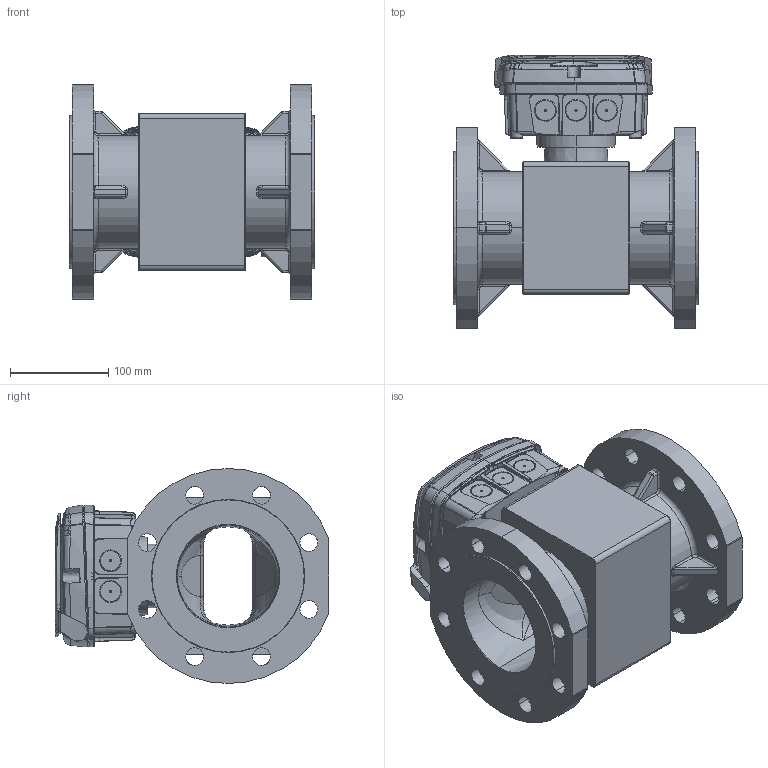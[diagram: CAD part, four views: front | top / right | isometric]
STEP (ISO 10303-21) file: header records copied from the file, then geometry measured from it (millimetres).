
FILE_DESCRIPTION (( 'STEP AP214' ), '1' );
FILE_NAME ('MagFlux-Q-DN100.STEP', '2018-01-07T08:37:03', ( 'Johnny' ), ( 'Hewlett-Packard Company' ), 'SwSTEP 2.0', 'SolidWorks 2017', '' );
FILE_SCHEMA (( 'AUTOMOTIVE_DESIGN' ));
Length unit declared in the file: millimetre
Products named in the file (7): MagFlux-Q-DN100; Field-MagFlux; 500220 - Field laag; 500216 - Field top - display; 500214 Field bund MagFlux 001; MagFlux-Q-DN100 Housing
Assembly tree (6 placements, depth 3):
  MagFlux-Q-DN100
    MagFlux-Q-DN100
    MagFlux-Q-DN100 Housing
    Field-MagFlux
      500214 Field bund MagFlux 001
      500216 - Field top - display
      500220 - Field laag
Bounding box: 250 x 278.47 x 219 mm (x, y, z)
Volume: 3006350 mm3; surface area: 713555.9 mm2
Topology: 5 solids, 5 shells, 3445 faces, 9385 edges, 6043 vertices
Faces by surface type: bspline 1943, plane 935, cylinder 342, cone 183, torus 34, sphere 8
Entity records: 269721 total; most frequent: CARTESIAN_POINT 170540, ORIENTED_EDGE 18692, EDGE_CURVE 9346, DIRECTION 8212, VERTEX_POINT 6043, B_SPLINE_CURVE_WITH_KNOTS 4734, EDGE_LOOP 3649, VECTOR 3612
